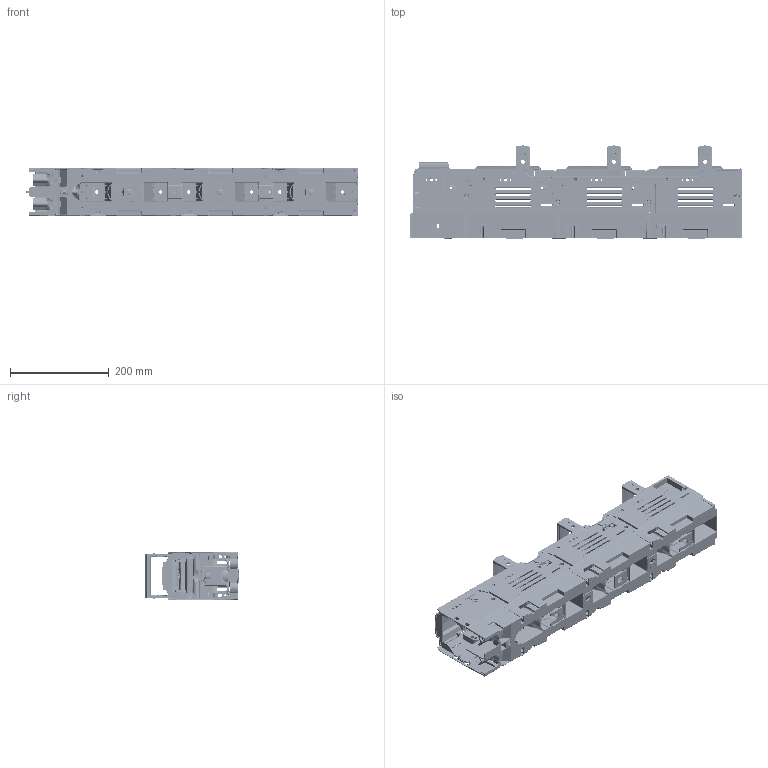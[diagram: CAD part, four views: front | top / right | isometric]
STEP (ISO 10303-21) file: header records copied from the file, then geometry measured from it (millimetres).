
FILE_DESCRIPTION (( 'STEP AP214' ), '1' );
FILE_NAME ('FSD123-31-LW.step', '2014-11-20T08:33:59', ( '' ), ( '' ), 'SwSTEP 2.0', 'SolidWorks 2011', '' );
FILE_SCHEMA (( 'AUTOMOTIVE_DESIGN' ));
Length unit declared in the file: millimetre
Products named in the file (1): FSD123-31-LW
Bounding box: 674 x 189 x 99 mm (x, y, z)
Volume: 1456598.9 mm3; surface area: 1245268.8 mm2
Topology: 23 solids, 23 shells, 11708 faces, 30741 edges, 18833 vertices
Faces by surface type: plane 5232, cylinder 3153, bspline 1386, cone 1191, torus 431, sphere 315
Entity records: 515682 total; most frequent: CARTESIAN_POINT 115546, ORIENTED_EDGE 60902, DIRECTION 52252, EDGE_CURVE 30451, VERTEX_POINT 18833, LINE 18020, VECTOR 18020, AXIS2_PLACEMENT_3D 17116
